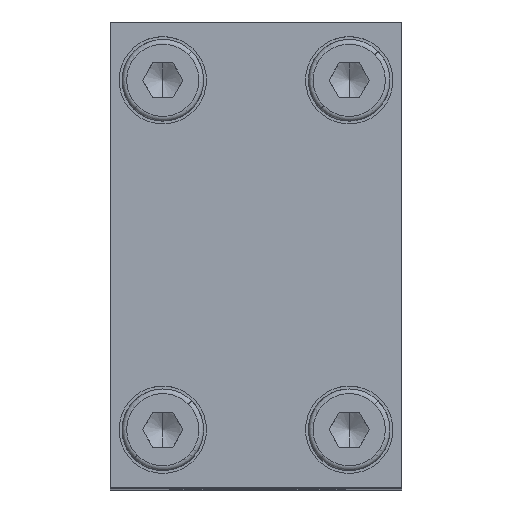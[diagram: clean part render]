
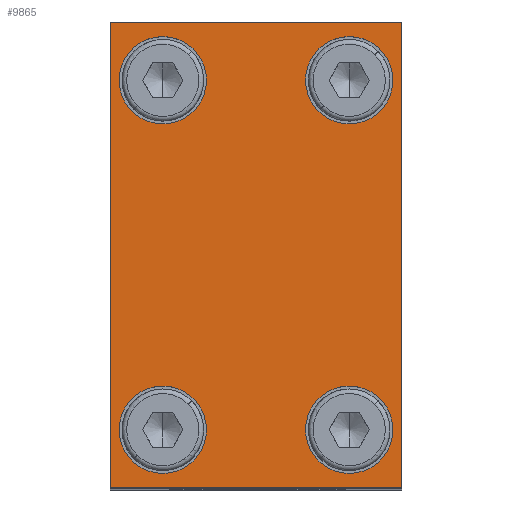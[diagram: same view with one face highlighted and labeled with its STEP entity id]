
A CAD part, top view. The second image highlights one B-rep face of the part: STEP entity #9865.
In plain terms, the highlighted planar face has unit normal (0, 0, 1).
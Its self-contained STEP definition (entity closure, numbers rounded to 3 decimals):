
#53 = VERTEX_POINT ( 'NONE', #705 ) ;
#54 = VERTEX_POINT ( 'NONE', #706 ) ;
#55 = VERTEX_POINT ( 'NONE', #707 ) ;
#56 = VERTEX_POINT ( 'NONE', #708 ) ;
#431 = VERTEX_POINT ( 'NONE', #1083 ) ;
#432 = VERTEX_POINT ( 'NONE', #1084 ) ;
#436 = VERTEX_POINT ( 'NONE', #1088 ) ;
#439 = VERTEX_POINT ( 'NONE', #1091 ) ;
#440 = VERTEX_POINT ( 'NONE', #1092 ) ;
#443 = VERTEX_POINT ( 'NONE', #1095 ) ;
#444 = VERTEX_POINT ( 'NONE', #1096 ) ;
#705 = CARTESIAN_POINT ( 'NONE',  ( 12.5, 20., 84. ) ) ;
#706 = CARTESIAN_POINT ( 'NONE',  ( -12.5, 20., 84. ) ) ;
#707 = CARTESIAN_POINT ( 'NONE',  ( -12.5, -20., 84. ) ) ;
#708 = CARTESIAN_POINT ( 'NONE',  ( 12.5, -20., 84. ) ) ;
#1083 = CARTESIAN_POINT ( 'NONE',  ( 8., 18.75, 84. ) ) ;
#1084 = CARTESIAN_POINT ( 'NONE',  ( 8., 11.25, 84. ) ) ;
#1088 = CARTESIAN_POINT ( 'NONE',  ( 8., -18.75, 84. ) ) ;
#1091 = CARTESIAN_POINT ( 'NONE',  ( -8., -11.25, 84. ) ) ;
#1092 = CARTESIAN_POINT ( 'NONE',  ( -8., -18.75, 84. ) ) ;
#1095 = CARTESIAN_POINT ( 'NONE',  ( -8., 18.75, 84. ) ) ;
#1096 = CARTESIAN_POINT ( 'NONE',  ( -8., 11.25, 84. ) ) ;
#1850 = CARTESIAN_POINT ( 'NONE',  ( 8., 15., 84. ) ) ;
#1853 = DIRECTION ( 'NONE',  ( 0., 0., -1. ) ) ;
#1854 = DIRECTION ( 'NONE',  ( 0., 0., -1. ) ) ;
#1855 = DIRECTION ( 'NONE',  ( 0., 1., 0. ) ) ;
#1857 = CARTESIAN_POINT ( 'NONE',  ( 8., -15., 84. ) ) ;
#1859 = CARTESIAN_POINT ( 'NONE',  ( -8., -15., 84. ) ) ;
#1861 = ORIENTED_EDGE ( 'NONE', *, *, #10756, .T. ) ;
#1862 = ORIENTED_EDGE ( 'NONE', *, *, #4532, .T. ) ;
#1863 = ORIENTED_EDGE ( 'NONE', *, *, #10777, .T. ) ;
#1864 = ORIENTED_EDGE ( 'NONE', *, *, #4537, .T. ) ;
#1865 = ORIENTED_EDGE ( 'NONE', *, *, #10866, .T. ) ;
#1866 = ORIENTED_EDGE ( 'NONE', *, *, #4541, .T. ) ;
#1867 = ORIENTED_EDGE ( 'NONE', *, *, #10786, .T. ) ;
#1868 = ORIENTED_EDGE ( 'NONE', *, *, #4545, .T. ) ;
#1869 = ORIENTED_EDGE ( 'NONE', *, *, #4550, .F. ) ;
#1870 = ORIENTED_EDGE ( 'NONE', *, *, #4565, .F. ) ;
#1871 = ORIENTED_EDGE ( 'NONE', *, *, #4560, .F. ) ;
#1872 = ORIENTED_EDGE ( 'NONE', *, *, #4556, .F. ) ;
#2755 = EDGE_LOOP ( 'NONE', ( #1861, #1862 ) ) ;
#2759 = EDGE_LOOP ( 'NONE', ( #1863, #1864 ) ) ;
#2761 = EDGE_LOOP ( 'NONE', ( #1869, #1870, #1871, #1872 ) ) ;
#2843 = EDGE_LOOP ( 'NONE', ( #1867, #1868 ) ) ;
#2845 = EDGE_LOOP ( 'NONE', ( #1865, #1866 ) ) ;
#4532 = EDGE_CURVE ( 'NONE', #432, #431, #5679, .T. ) ;
#4537 = EDGE_CURVE ( 'NONE', #436, #12550, #5683, .T. ) ;
#4541 = EDGE_CURVE ( 'NONE', #440, #439, #5685, .T. ) ;
#4545 = EDGE_CURVE ( 'NONE', #444, #443, #5689, .T. ) ;
#4550 = EDGE_CURVE ( 'NONE', #56, #55, #5676, .T. ) ;
#4556 = EDGE_CURVE ( 'NONE', #55, #54, #5686, .T. ) ;
#4560 = EDGE_CURVE ( 'NONE', #54, #53, #5695, .T. ) ;
#4565 = EDGE_CURVE ( 'NONE', #53, #56, #5701, .T. ) ;
#4860 = AXIS2_PLACEMENT_3D ( 'NONE', #1850, #1854, #1855 ) ;
#4870 = AXIS2_PLACEMENT_3D ( 'NONE', #1857, #1853, #6343 ) ;
#4872 = AXIS2_PLACEMENT_3D ( 'NONE', #1859, #6346, #6347 ) ;
#4874 = AXIS2_PLACEMENT_3D ( 'NONE', #6348, #6351, #6352 ) ;
#5306 = AXIS2_PLACEMENT_3D ( 'NONE', #7814, #7819, #7820 ) ;
#5676 = LINE ( 'NONE', #6356, #5684 ) ;
#5679 = CIRCLE ( 'NONE', #4860, 3.75 ) ;
#5683 = CIRCLE ( 'NONE', #4870, 3.75 ) ;
#5684 = VECTOR ( 'NONE', #6357, 1000. ) ;
#5685 = CIRCLE ( 'NONE', #4872, 3.75 ) ;
#5686 = LINE ( 'NONE', #6361, #5696 ) ;
#5689 = CIRCLE ( 'NONE', #4874, 3.75 ) ;
#5695 = LINE ( 'NONE', #6366, #5700 ) ;
#5696 = VECTOR ( 'NONE', #6362, 1000. ) ;
#5700 = VECTOR ( 'NONE', #6367, 1000. ) ;
#5701 = LINE ( 'NONE', #6364, #5703 ) ;
#5703 = VECTOR ( 'NONE', #6372, 1000. ) ;
#6313 = FACE_OUTER_BOUND ( 'NONE', #2761, .T. ) ;
#6318 = FACE_BOUND ( 'NONE', #2759, .T. ) ;
#6320 = FACE_BOUND ( 'NONE', #2755, .T. ) ;
#6324 = FACE_BOUND ( 'NONE', #2845, .T. ) ;
#6326 = FACE_BOUND ( 'NONE', #2843, .T. ) ;
#6343 = DIRECTION ( 'NONE',  ( 0., 1., 0. ) ) ;
#6346 = DIRECTION ( 'NONE',  ( 0., 0., -1. ) ) ;
#6347 = DIRECTION ( 'NONE',  ( 0., 1., 0. ) ) ;
#6348 = CARTESIAN_POINT ( 'NONE',  ( -8., 15., 84. ) ) ;
#6351 = DIRECTION ( 'NONE',  ( 0., 0., -1. ) ) ;
#6352 = DIRECTION ( 'NONE',  ( 0., 1., 0. ) ) ;
#6356 = CARTESIAN_POINT ( 'NONE',  ( -12.5, -20., 84. ) ) ;
#6357 = DIRECTION ( 'NONE',  ( -1., 0., 0. ) ) ;
#6361 = CARTESIAN_POINT ( 'NONE',  ( -12.5, 20., 84. ) ) ;
#6362 = DIRECTION ( 'NONE',  ( 0., 1., 0. ) ) ;
#6364 = CARTESIAN_POINT ( 'NONE',  ( 12.5, -20., 84. ) ) ;
#6366 = CARTESIAN_POINT ( 'NONE',  ( 12.5, 20., 84. ) ) ;
#6367 = DIRECTION ( 'NONE',  ( 1., 0., 0. ) ) ;
#6372 = DIRECTION ( 'NONE',  ( 0., -1., 0. ) ) ;
#7813 = PLANE ( 'NONE',  #5306 ) ;
#7814 = CARTESIAN_POINT ( 'NONE',  ( 0., 0., 84. ) ) ;
#7819 = DIRECTION ( 'NONE',  ( 0., 0., 1. ) ) ;
#7820 = DIRECTION ( 'NONE',  ( 0.707, 0.707, 0. ) ) ;
#8741 = CARTESIAN_POINT ( 'NONE',  ( 8., 15., 84. ) ) ;
#8747 = DIRECTION ( 'NONE',  ( 0., 0., -1. ) ) ;
#8748 = DIRECTION ( 'NONE',  ( 0., 1., 0. ) ) ;
#8775 = CARTESIAN_POINT ( 'NONE',  ( 8., -15., 84. ) ) ;
#8776 = DIRECTION ( 'NONE',  ( 0., 0., -1. ) ) ;
#8777 = DIRECTION ( 'NONE',  ( 0., 1., 0. ) ) ;
#8789 = CARTESIAN_POINT ( 'NONE',  ( -8., 15., 84. ) ) ;
#8791 = DIRECTION ( 'NONE',  ( 0., 0., -1. ) ) ;
#8792 = DIRECTION ( 'NONE',  ( 0., 1., 0. ) ) ;
#9329 = CIRCLE ( 'NONE', #9526, 3.75 ) ;
#9341 = CIRCLE ( 'NONE', #9533, 3.75 ) ;
#9346 = CIRCLE ( 'NONE', #9535, 3.75 ) ;
#9391 = CIRCLE ( 'NONE', #9557, 3.75 ) ;
#9526 = AXIS2_PLACEMENT_3D ( 'NONE', #8741, #8747, #8748 ) ;
#9533 = AXIS2_PLACEMENT_3D ( 'NONE', #8775, #8776, #8777 ) ;
#9535 = AXIS2_PLACEMENT_3D ( 'NONE', #8789, #8791, #8792 ) ;
#9557 = AXIS2_PLACEMENT_3D ( 'NONE', #10007, #10013, #10014 ) ;
#9865 = ADVANCED_FACE ( 'NONE', ( #6320, #6318, #6324, #6326, #6313 ), #7813, .T. ) ;
#10007 = CARTESIAN_POINT ( 'NONE',  ( -8., -15., 84. ) ) ;
#10013 = DIRECTION ( 'NONE',  ( 0., 0., -1. ) ) ;
#10014 = DIRECTION ( 'NONE',  ( 0., 1., 0. ) ) ;
#10756 = EDGE_CURVE ( 'NONE', #431, #432, #9329, .T. ) ;
#10777 = EDGE_CURVE ( 'NONE', #12550, #436, #9341, .T. ) ;
#10786 = EDGE_CURVE ( 'NONE', #443, #444, #9346, .T. ) ;
#10866 = EDGE_CURVE ( 'NONE', #439, #440, #9391, .T. ) ;
#12468 = CARTESIAN_POINT ( 'NONE',  ( 8., -11.25, 84. ) ) ;
#12550 = VERTEX_POINT ( 'NONE', #12468 ) ;
